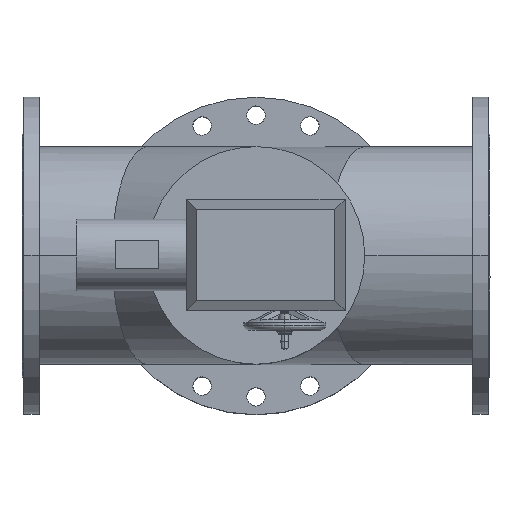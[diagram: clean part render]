
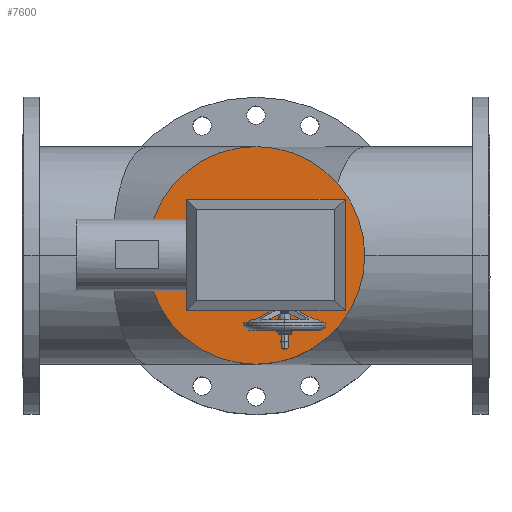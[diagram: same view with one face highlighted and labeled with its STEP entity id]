
A CAD part, top view. The second image highlights one B-rep face of the part: STEP entity #7600.
In plain terms, the highlighted planar face has unit normal (0, 0, 1).
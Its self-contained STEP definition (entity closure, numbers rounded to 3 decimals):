
#1677=FACE_OUTER_BOUND('',#2252,.T.);
#2252=EDGE_LOOP('',(#5759,#5760));
#2863=CIRCLE('',#8406,212.5);
#2864=CIRCLE('',#8407,212.5);
#3445=VERTEX_POINT('',#12358);
#3446=VERTEX_POINT('',#12359);
#4259=EDGE_CURVE('',#3445,#3446,#2863,.T.);
#4260=EDGE_CURVE('',#3446,#3445,#2864,.T.);
#5759=ORIENTED_EDGE('',*,*,#4259,.T.);
#5760=ORIENTED_EDGE('',*,*,#4260,.T.);
#6872=PLANE('',#8405);
#7600=ADVANCED_FACE('',(#1677),#6872,.T.);
#8405=AXIS2_PLACEMENT_3D('',#12357,#10074,#10075);
#8406=AXIS2_PLACEMENT_3D('',#12360,#10076,#10077);
#8407=AXIS2_PLACEMENT_3D('',#12361,#10078,#10079);
#10074=DIRECTION('center_axis',(0.,0.,1.));
#10075=DIRECTION('ref_axis',(0.,-1.,0.));
#10076=DIRECTION('center_axis',(0.,0.,1.));
#10077=DIRECTION('ref_axis',(-1.,0.,0.));
#10078=DIRECTION('center_axis',(0.,0.,1.));
#10079=DIRECTION('ref_axis',(-1.,0.,0.));
#12357=CARTESIAN_POINT('Origin',(-212.5,0.,398.));
#12358=CARTESIAN_POINT('',(212.5,0.,398.));
#12359=CARTESIAN_POINT('',(-212.5,0.,398.));
#12360=CARTESIAN_POINT('Origin',(0.,0.,398.));
#12361=CARTESIAN_POINT('Origin',(0.,0.,398.));
